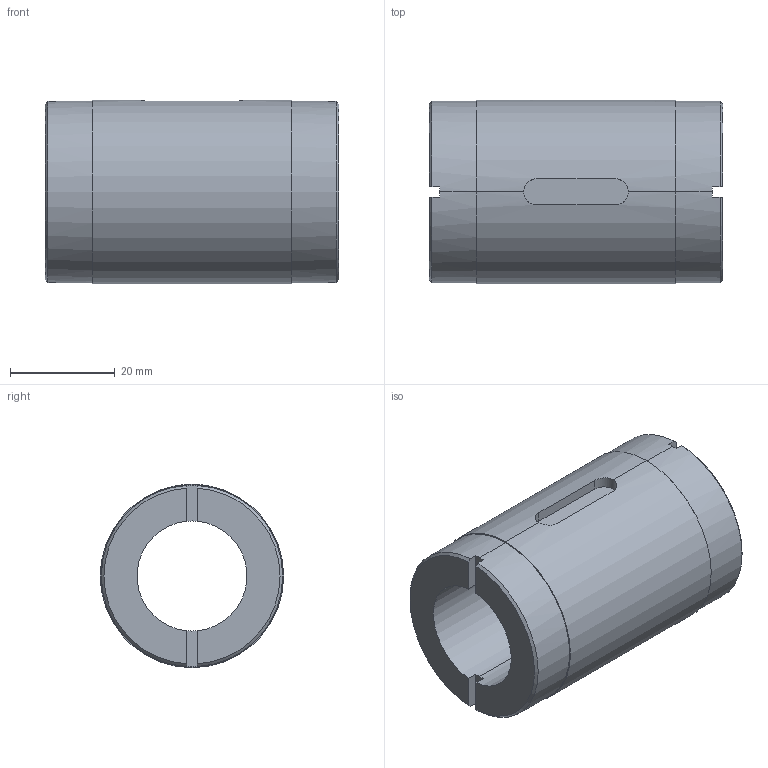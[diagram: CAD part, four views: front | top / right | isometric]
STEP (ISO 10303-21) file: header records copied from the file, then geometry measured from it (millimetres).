
FILE_DESCRIPTION (( 'STEP AP214' ), '1' );
FILE_NAME ('KGM-N 2050.STEP', '2021-01-19T08:52:39', ( 'user' ), ( 'datathink' ), 'SwSTEP 2.0', 'SolidWorks 2013', '' );
FILE_SCHEMA (( 'AUTOMOTIVE_DESIGN' ));
Length unit declared in the file: millimetre
Products named in the file (1): KGM-N 2050
Bounding box: 56 x 35 x 35 mm (x, y, z)
Volume: 33738.5 mm3; surface area: 11197.9 mm2
Topology: 1 solids, 1 shells, 38 faces, 107 edges, 71 vertices
Faces by surface type: plane 21, cylinder 13, cone 4
Entity records: 1400 total; most frequent: CARTESIAN_POINT 365, ORIENTED_EDGE 214, DIRECTION 208, EDGE_CURVE 107, AXIS2_PLACEMENT_3D 78, VERTEX_POINT 71, VECTOR 52, LINE 52
